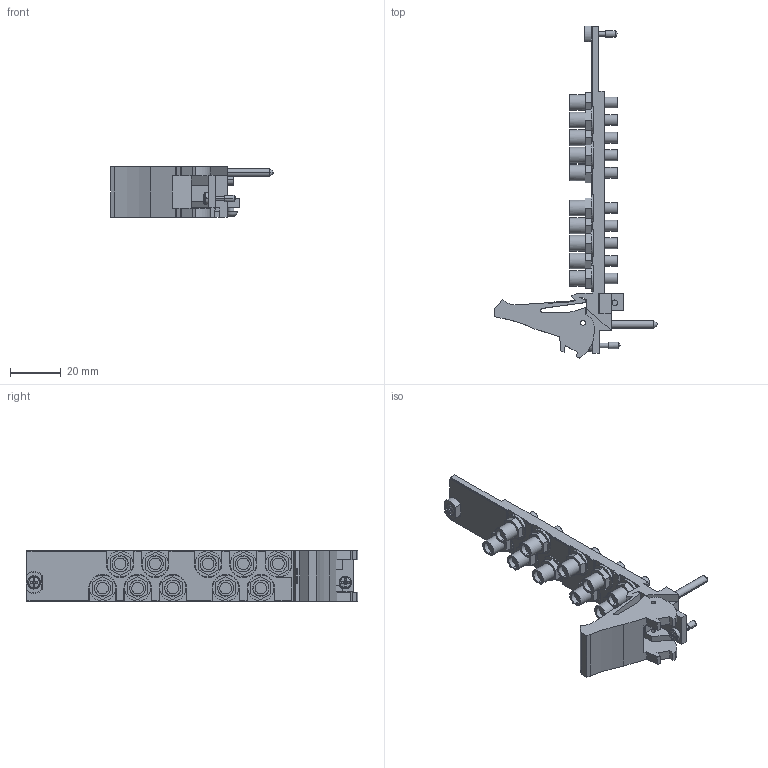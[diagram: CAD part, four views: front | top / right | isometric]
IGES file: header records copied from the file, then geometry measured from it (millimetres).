
Start section:  PTC IGES file: cu_pxi-2546.igs
Global section: file name: cu_pxi-2546.igs; native system: Pro/ENGINEER by Parametric Technology Corporation; preprocessor: 2006080; author: jjorden; organization: Unknown; date: 091110.105647; units: inch
Bounding box: 63.73 x 130.43 x 20.02 mm (x, y, z)
Surface area: 18466.5 mm2 (no closed solid volume)
Topology: 0 solids, 0 shells, 868 faces, 4480 edges, 4470 vertices
Faces by surface type: bspline 529, revolution 339
